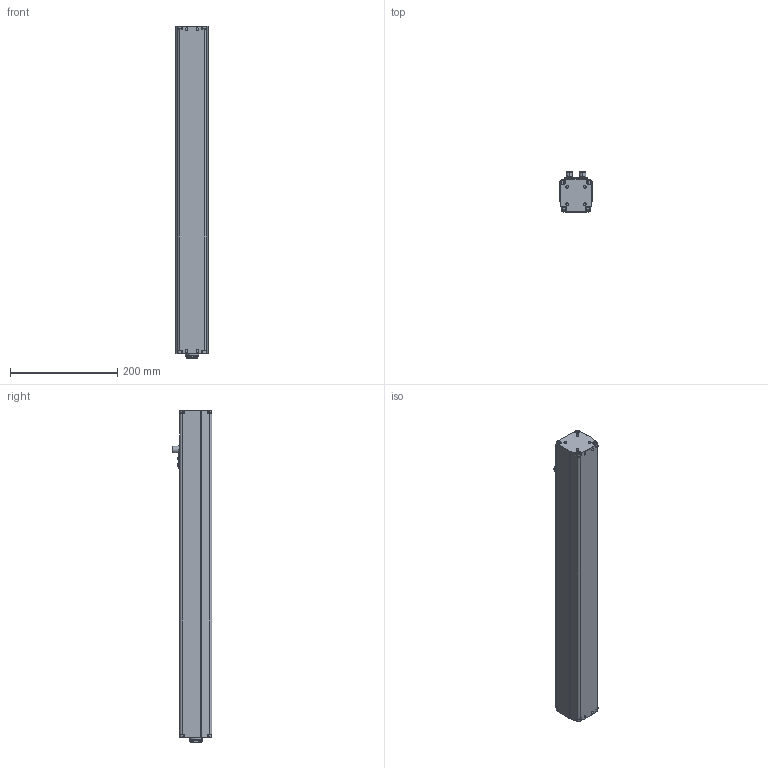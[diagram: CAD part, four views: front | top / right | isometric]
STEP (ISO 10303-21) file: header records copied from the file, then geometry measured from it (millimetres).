
FILE_DESCRIPTION (( 'STEP AP214' ), '1' );
FILE_NAME ('CTC-060-K__-0500-I.STEP', '2021-10-18T11:49:43', ( '' ), ( '' ), 'SwSTEP 2.0', 'SolidWorks 2020', '' );
FILE_SCHEMA (( 'AUTOMOTIVE_DESIGN' ));
Length unit declared in the file: millimetre
Products named in the file (4): Aufsatz M6; Schubrohr_Hub 500; CTC-060-K__-0500-I; Gehaeuse_Hub_500
Assembly tree (3 placements, depth 2):
  CTC-060-K__-0500-I
    Gehaeuse_Hub_500
    Schubrohr_Hub 500
    Aufsatz M6
Bounding box: 60 x 74.3 x 620 mm (x, y, z)
Volume: 1919172.7 mm3; surface area: 262528.4 mm2
Topology: 3 solids, 3 shells, 871 faces, 2119 edges, 1363 vertices
Faces by surface type: plane 416, cylinder 203, bspline 129, torus 69, cone 46, sphere 8
Entity records: 36935 total; most frequent: CARTESIAN_POINT 11970, ORIENTED_EDGE 4234, DIRECTION 3957, EDGE_CURVE 2117, VERTEX_POINT 1363, AXIS2_PLACEMENT_3D 1362, LINE 1233, VECTOR 1233
